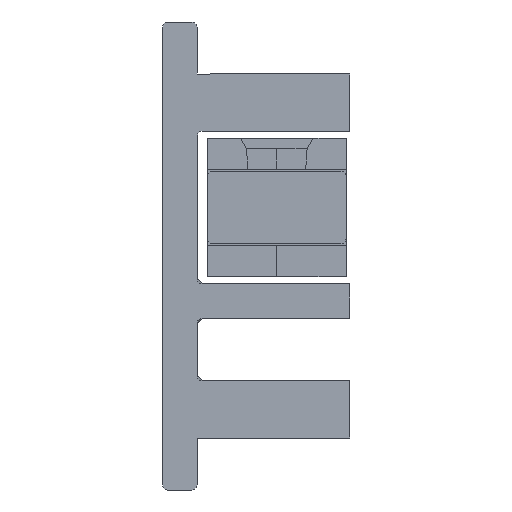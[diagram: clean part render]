
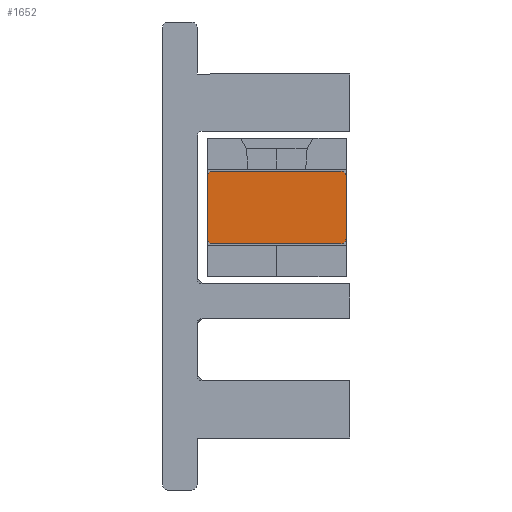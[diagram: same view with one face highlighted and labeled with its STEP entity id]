
A CAD part, front view. The second image highlights one B-rep face of the part: STEP entity #1652.
In plain terms, the highlighted planar face has unit normal (0, -1, 0) as drawn and (0.192, 0.275, 0.942) by its records, which use the part's own axes.
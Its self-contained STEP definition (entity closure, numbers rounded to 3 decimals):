
#22 = LINE ( 'NONE', #1674, #3938 ) ;
#82 = CARTESIAN_POINT ( 'NONE',  ( 391.205, 554.387, 1900.67 ) ) ;
#86 = CARTESIAN_POINT ( 'NONE',  ( 391.499, 554.659, 1900.531 ) ) ;
#282 = CARTESIAN_POINT ( 'NONE',  ( 387.672, 554.581, 1901.334 ) ) ;
#303 = LINE ( 'NONE', #282, #2929 ) ;
#364 = FACE_OUTER_BOUND ( 'NONE', #1576, .T. ) ;
#386 = CARTESIAN_POINT ( 'NONE',  ( 391.205, 561.779, 1898.514 ) ) ;
#394 = EDGE_CURVE ( 'NONE', #3848, #2762, #2266, .T. ) ;
#402 = AXIS2_PLACEMENT_3D ( 'NONE', #816, #3370, #2433 ) ;
#816 = CARTESIAN_POINT ( 'NONE',  ( 387.672, 561.973, 1899.178 ) ) ;
#1016 = DIRECTION ( 'NONE',  ( 0., -0.96, 0.28 ) ) ;
#1066 = CARTESIAN_POINT ( 'NONE',  ( 373.442, -175.778, 2117.264 ) ) ;
#1182 = DIRECTION ( 'NONE',  ( -0.192, -0.275, -0.942 ) ) ;
#1199 = ORIENTED_EDGE ( 'NONE', *, *, #1965, .F. ) ;
#1216 = VECTOR ( 'NONE', #2983, 1000. ) ;
#1234 = VECTOR ( 'NONE', #1016, 1000. ) ;
#1496 = CARTESIAN_POINT ( 'NONE',  ( 391.205, 562.067, 1898.43 ) ) ;
#1519 = EDGE_CURVE ( 'NONE', #5311, #2854, #2208, .T. ) ;
#1573 = DIRECTION ( 'NONE',  ( 0., 0.96, -0.28 ) ) ;
#1576 = EDGE_LOOP ( 'NONE', ( #4937, #2539, #3628, #1199, #3309, #4626, #4851, #1679 ) ) ;
#1652 = ADVANCED_FACE ( 'NONE', ( #364 ), #5284, .F. ) ;
#1674 = CARTESIAN_POINT ( 'NONE',  ( 387.672, 562.261, 1899.094 ) ) ;
#1679 = ORIENTED_EDGE ( 'NONE', *, *, #1519, .F. ) ;
#1738 = VERTEX_POINT ( 'NONE', #82 ) ;
#1776 = EDGE_CURVE ( 'NONE', #4495, #3848, #5055, .T. ) ;
#1841 = CARTESIAN_POINT ( 'NONE',  ( 387.377, 561.989, 1899.233 ) ) ;
#1937 = EDGE_CURVE ( 'NONE', #2762, #5311, #22, .T. ) ;
#1965 = EDGE_CURVE ( 'NONE', #3020, #4495, #2997, .T. ) ;
#2208 = CIRCLE ( 'NONE', #3077, 0.3 ) ;
#2214 = VERTEX_POINT ( 'NONE', #86 ) ;
#2266 = CIRCLE ( 'NONE', #402, 0.3 ) ;
#2288 = CARTESIAN_POINT ( 'NONE',  ( 391.499, 561.763, 1898.459 ) ) ;
#2338 = DIRECTION ( 'NONE',  ( -0.981, 0.054, 0.184 ) ) ;
#2433 = DIRECTION ( 'NONE',  ( 0., 0.96, -0.28 ) ) ;
#2539 = ORIENTED_EDGE ( 'NONE', *, *, #394, .F. ) ;
#2762 = VERTEX_POINT ( 'NONE', #4814 ) ;
#2854 = VERTEX_POINT ( 'NONE', #2288 ) ;
#2929 = VECTOR ( 'NONE', #2338, 1000. ) ;
#2983 = DIRECTION ( 'NONE',  ( 0., 0.96, -0.28 ) ) ;
#2997 = CIRCLE ( 'NONE', #4109, 0.3 ) ;
#3020 = VERTEX_POINT ( 'NONE', #5204 ) ;
#3077 = AXIS2_PLACEMENT_3D ( 'NONE', #386, #1182, #4447 ) ;
#3088 = DIRECTION ( 'NONE',  ( 0., 0.96, -0.28 ) ) ;
#3137 = CARTESIAN_POINT ( 'NONE',  ( 387.377, 561.989, 1899.233 ) ) ;
#3165 = AXIS2_PLACEMENT_3D ( 'NONE', #1066, #4960, #4155 ) ;
#3258 = EDGE_CURVE ( 'NONE', #2854, #2214, #4254, .T. ) ;
#3309 = ORIENTED_EDGE ( 'NONE', *, *, #4604, .F. ) ;
#3315 = DIRECTION ( 'NONE',  ( 0.981, -0.054, -0.184 ) ) ;
#3370 = DIRECTION ( 'NONE',  ( -0.192, -0.275, -0.942 ) ) ;
#3400 = CARTESIAN_POINT ( 'NONE',  ( 387.377, 554.885, 1901.305 ) ) ;
#3628 = ORIENTED_EDGE ( 'NONE', *, *, #1776, .F. ) ;
#3847 = CARTESIAN_POINT ( 'NONE',  ( 391.499, 561.763, 1898.459 ) ) ;
#3848 = VERTEX_POINT ( 'NONE', #3137 ) ;
#3872 = CIRCLE ( 'NONE', #5068, 0.3 ) ;
#3874 = DIRECTION ( 'NONE',  ( -0.192, -0.275, -0.942 ) ) ;
#3938 = VECTOR ( 'NONE', #3315, 1000. ) ;
#4109 = AXIS2_PLACEMENT_3D ( 'NONE', #5046, #3874, #3088 ) ;
#4155 = DIRECTION ( 'NONE',  ( 0., 0.96, -0.28 ) ) ;
#4254 = LINE ( 'NONE', #3847, #1234 ) ;
#4398 = DIRECTION ( 'NONE',  ( -0.192, -0.275, -0.942 ) ) ;
#4447 = DIRECTION ( 'NONE',  ( 0., 0.96, -0.28 ) ) ;
#4495 = VERTEX_POINT ( 'NONE', #3400 ) ;
#4604 = EDGE_CURVE ( 'NONE', #1738, #3020, #303, .T. ) ;
#4626 = ORIENTED_EDGE ( 'NONE', *, *, #4702, .F. ) ;
#4702 = EDGE_CURVE ( 'NONE', #2214, #1738, #3872, .T. ) ;
#4785 = CARTESIAN_POINT ( 'NONE',  ( 391.205, 554.675, 1900.586 ) ) ;
#4814 = CARTESIAN_POINT ( 'NONE',  ( 387.672, 562.261, 1899.094 ) ) ;
#4851 = ORIENTED_EDGE ( 'NONE', *, *, #3258, .F. ) ;
#4937 = ORIENTED_EDGE ( 'NONE', *, *, #1937, .F. ) ;
#4960 = DIRECTION ( 'NONE',  ( -0.192, -0.275, -0.942 ) ) ;
#5046 = CARTESIAN_POINT ( 'NONE',  ( 387.672, 554.869, 1901.25 ) ) ;
#5055 = LINE ( 'NONE', #1841, #1216 ) ;
#5068 = AXIS2_PLACEMENT_3D ( 'NONE', #4785, #4398, #1573 ) ;
#5204 = CARTESIAN_POINT ( 'NONE',  ( 387.672, 554.581, 1901.334 ) ) ;
#5284 = PLANE ( 'NONE',  #3165 ) ;
#5311 = VERTEX_POINT ( 'NONE', #1496 ) ;
